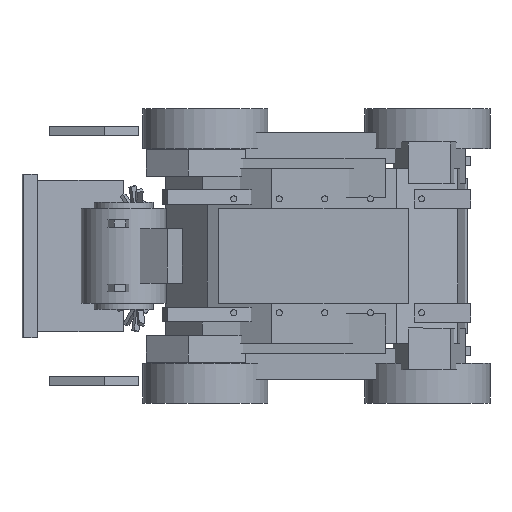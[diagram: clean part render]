
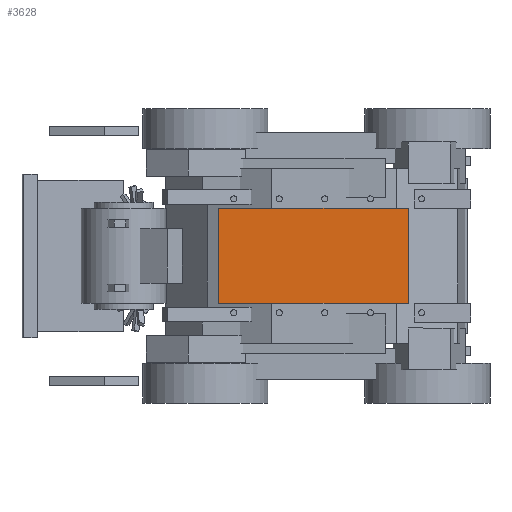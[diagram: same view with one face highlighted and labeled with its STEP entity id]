
A CAD part, top view. The second image highlights one B-rep face of the part: STEP entity #3628.
In plain terms, the highlighted planar face has unit normal (0, 0, 1).
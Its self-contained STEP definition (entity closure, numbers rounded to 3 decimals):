
#3314 = VERTEX_POINT('',#3315);
#3315 = CARTESIAN_POINT('',(-220.,-125.,421.));
#3322 = PLANE('',#3323);
#3323 = AXIS2_PLACEMENT_3D('',#3324,#3325,#3326);
#3324 = CARTESIAN_POINT('',(-220.,-125.,399.));
#3325 = DIRECTION('',(1.,0.,0.));
#3326 = DIRECTION('',(0.,0.,1.));
#3334 = PLANE('',#3335);
#3335 = AXIS2_PLACEMENT_3D('',#3336,#3337,#3338);
#3336 = CARTESIAN_POINT('',(-220.,-125.,399.));
#3337 = DIRECTION('',(0.,1.,0.));
#3338 = DIRECTION('',(0.,0.,1.));
#3375 = VERTEX_POINT('',#3376);
#3376 = CARTESIAN_POINT('',(-220.,125.,421.));
#3390 = PLANE('',#3391);
#3391 = AXIS2_PLACEMENT_3D('',#3392,#3393,#3394);
#3392 = CARTESIAN_POINT('',(-220.,125.,399.));
#3393 = DIRECTION('',(0.,1.,0.));
#3394 = DIRECTION('',(0.,0.,1.));
#3402 = EDGE_CURVE('',#3314,#3375,#3403,.T.);
#3403 = SURFACE_CURVE('',#3404,(#3408,#3415),.PCURVE_S1.);
#3404 = LINE('',#3405,#3406);
#3405 = CARTESIAN_POINT('',(-220.,-125.,421.));
#3406 = VECTOR('',#3407,1.);
#3407 = DIRECTION('',(0.,1.,0.));
#3408 = PCURVE('',#3322,#3409);
#3409 = DEFINITIONAL_REPRESENTATION('',(#3410),#3414);
#3410 = LINE('',#3411,#3412);
#3411 = CARTESIAN_POINT('',(22.,0.));
#3412 = VECTOR('',#3413,1.);
#3413 = DIRECTION('',(0.,-1.));
#3414 = ( GEOMETRIC_REPRESENTATION_CONTEXT(2) 
PARAMETRIC_REPRESENTATION_CONTEXT() REPRESENTATION_CONTEXT('2D SPACE',''
  ) );
#3415 = PCURVE('',#3416,#3421);
#3416 = PLANE('',#3417);
#3417 = AXIS2_PLACEMENT_3D('',#3418,#3419,#3420);
#3418 = CARTESIAN_POINT('',(-220.,-125.,421.));
#3419 = DIRECTION('',(0.,0.,1.));
#3420 = DIRECTION('',(1.,0.,0.));
#3421 = DEFINITIONAL_REPRESENTATION('',(#3422),#3426);
#3422 = LINE('',#3423,#3424);
#3423 = CARTESIAN_POINT('',(0.,0.));
#3424 = VECTOR('',#3425,1.);
#3425 = DIRECTION('',(0.,1.));
#3426 = ( GEOMETRIC_REPRESENTATION_CONTEXT(2) 
PARAMETRIC_REPRESENTATION_CONTEXT() REPRESENTATION_CONTEXT('2D SPACE',''
  ) );
#3434 = VERTEX_POINT('',#3435);
#3435 = CARTESIAN_POINT('',(280.,-125.,421.));
#3442 = PLANE('',#3443);
#3443 = AXIS2_PLACEMENT_3D('',#3444,#3445,#3446);
#3444 = CARTESIAN_POINT('',(280.,-125.,399.));
#3445 = DIRECTION('',(1.,0.,0.));
#3446 = DIRECTION('',(0.,0.,1.));
#3485 = VERTEX_POINT('',#3486);
#3486 = CARTESIAN_POINT('',(280.,125.,421.));
#3507 = EDGE_CURVE('',#3434,#3485,#3508,.T.);
#3508 = SURFACE_CURVE('',#3509,(#3513,#3520),.PCURVE_S1.);
#3509 = LINE('',#3510,#3511);
#3510 = CARTESIAN_POINT('',(280.,-125.,421.));
#3511 = VECTOR('',#3512,1.);
#3512 = DIRECTION('',(0.,1.,0.));
#3513 = PCURVE('',#3442,#3514);
#3514 = DEFINITIONAL_REPRESENTATION('',(#3515),#3519);
#3515 = LINE('',#3516,#3517);
#3516 = CARTESIAN_POINT('',(22.,0.));
#3517 = VECTOR('',#3518,1.);
#3518 = DIRECTION('',(0.,-1.));
#3519 = ( GEOMETRIC_REPRESENTATION_CONTEXT(2) 
PARAMETRIC_REPRESENTATION_CONTEXT() REPRESENTATION_CONTEXT('2D SPACE',''
  ) );
#3520 = PCURVE('',#3416,#3521);
#3521 = DEFINITIONAL_REPRESENTATION('',(#3522),#3526);
#3522 = LINE('',#3523,#3524);
#3523 = CARTESIAN_POINT('',(500.,0.));
#3524 = VECTOR('',#3525,1.);
#3525 = DIRECTION('',(0.,1.));
#3526 = ( GEOMETRIC_REPRESENTATION_CONTEXT(2) 
PARAMETRIC_REPRESENTATION_CONTEXT() REPRESENTATION_CONTEXT('2D SPACE',''
  ) );
#3553 = EDGE_CURVE('',#3314,#3434,#3554,.T.);
#3554 = SURFACE_CURVE('',#3555,(#3559,#3566),.PCURVE_S1.);
#3555 = LINE('',#3556,#3557);
#3556 = CARTESIAN_POINT('',(-220.,-125.,421.));
#3557 = VECTOR('',#3558,1.);
#3558 = DIRECTION('',(1.,0.,0.));
#3559 = PCURVE('',#3334,#3560);
#3560 = DEFINITIONAL_REPRESENTATION('',(#3561),#3565);
#3561 = LINE('',#3562,#3563);
#3562 = CARTESIAN_POINT('',(22.,0.));
#3563 = VECTOR('',#3564,1.);
#3564 = DIRECTION('',(0.,1.));
#3565 = ( GEOMETRIC_REPRESENTATION_CONTEXT(2) 
PARAMETRIC_REPRESENTATION_CONTEXT() REPRESENTATION_CONTEXT('2D SPACE',''
  ) );
#3566 = PCURVE('',#3416,#3567);
#3567 = DEFINITIONAL_REPRESENTATION('',(#3568),#3572);
#3568 = LINE('',#3569,#3570);
#3569 = CARTESIAN_POINT('',(0.,0.));
#3570 = VECTOR('',#3571,1.);
#3571 = DIRECTION('',(1.,0.));
#3572 = ( GEOMETRIC_REPRESENTATION_CONTEXT(2) 
PARAMETRIC_REPRESENTATION_CONTEXT() REPRESENTATION_CONTEXT('2D SPACE',''
  ) );
#3600 = EDGE_CURVE('',#3375,#3485,#3601,.T.);
#3601 = SURFACE_CURVE('',#3602,(#3606,#3613),.PCURVE_S1.);
#3602 = LINE('',#3603,#3604);
#3603 = CARTESIAN_POINT('',(-220.,125.,421.));
#3604 = VECTOR('',#3605,1.);
#3605 = DIRECTION('',(1.,0.,0.));
#3606 = PCURVE('',#3390,#3607);
#3607 = DEFINITIONAL_REPRESENTATION('',(#3608),#3612);
#3608 = LINE('',#3609,#3610);
#3609 = CARTESIAN_POINT('',(22.,0.));
#3610 = VECTOR('',#3611,1.);
#3611 = DIRECTION('',(0.,1.));
#3612 = ( GEOMETRIC_REPRESENTATION_CONTEXT(2) 
PARAMETRIC_REPRESENTATION_CONTEXT() REPRESENTATION_CONTEXT('2D SPACE',''
  ) );
#3613 = PCURVE('',#3416,#3614);
#3614 = DEFINITIONAL_REPRESENTATION('',(#3615),#3619);
#3615 = LINE('',#3616,#3617);
#3616 = CARTESIAN_POINT('',(0.,250.));
#3617 = VECTOR('',#3618,1.);
#3618 = DIRECTION('',(1.,0.));
#3619 = ( GEOMETRIC_REPRESENTATION_CONTEXT(2) 
PARAMETRIC_REPRESENTATION_CONTEXT() REPRESENTATION_CONTEXT('2D SPACE',''
  ) );
#3628 = ADVANCED_FACE('',(#3629),#3416,.T.);
#3629 = FACE_BOUND('',#3630,.T.);
#3630 = EDGE_LOOP('',(#3631,#3632,#3633,#3634));
#3631 = ORIENTED_EDGE('',*,*,#3402,.F.);
#3632 = ORIENTED_EDGE('',*,*,#3553,.T.);
#3633 = ORIENTED_EDGE('',*,*,#3507,.T.);
#3634 = ORIENTED_EDGE('',*,*,#3600,.F.);
